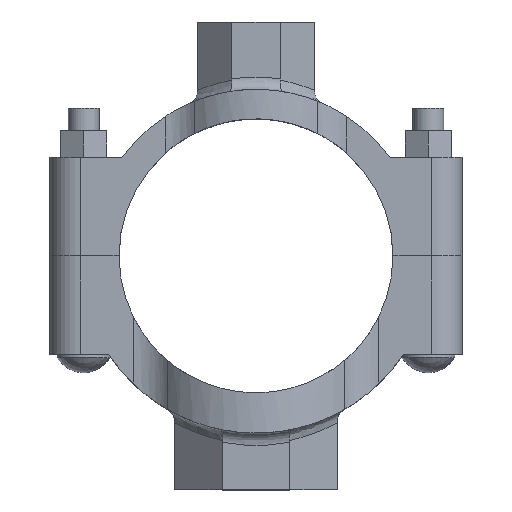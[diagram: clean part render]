
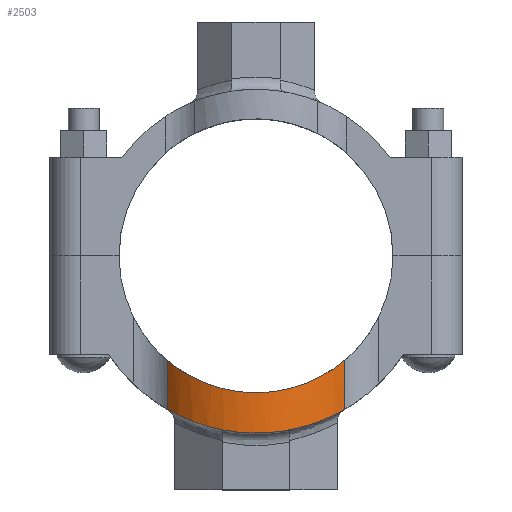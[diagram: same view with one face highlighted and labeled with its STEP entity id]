
A CAD part, top view. The second image highlights one B-rep face of the part: STEP entity #2503.
In plain terms, the highlighted cylindrical face has radius 58.801 mm (diameter 117.602 mm), a partial arc.
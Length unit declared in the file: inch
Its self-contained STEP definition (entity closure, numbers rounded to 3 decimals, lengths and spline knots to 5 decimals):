
#96=B_SPLINE_CURVE_WITH_KNOTS('',3,(#4636,#4637,#4638,#4639,#4640,#4641,
#4642,#4643,#4644,#4645,#4646,#4647,#4648,#4649,#4650,#4651,#4652,#4653,
#4654,#4655,#4656,#4657),.UNSPECIFIED.,.F.,.F.,(4,2,2,2,2,2,2,2,2,2,4),
(22.35035,23.00779,24.15185,25.29592,26.43998,
27.58405,28.72811,29.87217,31.01624,32.1603,
32.81774),.UNSPECIFIED.);
#107=B_SPLINE_CURVE_WITH_KNOTS('',3,(#4969,#4970,#4971,#4972,#4973,#4974,
#4975,#4976,#4977,#4978,#4979,#4980,#4981,#4982,#4983,#4984,#4985,#4986,
#4987,#4988,#4989,#4990),.UNSPECIFIED.,.F.,.F.,(4,2,2,2,2,2,2,2,2,2,4),
(4.19691,4.89556,6.07013,7.24471,8.41929,
9.59386,10.76844,11.94301,13.11759,14.29216,
14.99081),.UNSPECIFIED.);
#157=CYLINDRICAL_SURFACE('',#2789,2.315);
#305=FACE_OUTER_BOUND('',#457,.T.);
#457=EDGE_LOOP('',(#2139,#2140,#2141,#2142));
#642=LINE('',#5055,#826);
#643=LINE('',#5057,#827);
#826=VECTOR('',#3406,0.3937);
#827=VECTOR('',#3409,0.3937);
#1088=VERTEX_POINT('',#4622);
#1089=VERTEX_POINT('',#4635);
#1136=VERTEX_POINT('',#4955);
#1137=VERTEX_POINT('',#4968);
#1396=EDGE_CURVE('',#1089,#1088,#96,.T.);
#1458=EDGE_CURVE('',#1137,#1136,#107,.T.);
#1486=EDGE_CURVE('',#1136,#1089,#642,.T.);
#1487=EDGE_CURVE('',#1137,#1088,#643,.T.);
#2139=ORIENTED_EDGE('',*,*,#1458,.T.);
#2140=ORIENTED_EDGE('',*,*,#1486,.T.);
#2141=ORIENTED_EDGE('',*,*,#1396,.T.);
#2142=ORIENTED_EDGE('',*,*,#1487,.F.);
#2503=ADVANCED_FACE('',(#305),#157,.T.);
#2789=AXIS2_PLACEMENT_3D('',#5056,#3407,#3408);
#3406=DIRECTION('',(0.,1.,0.));
#3407=DIRECTION('center_axis',(0.,1.,0.));
#3408=DIRECTION('ref_axis',(-0.779,0.,0.628));
#3409=DIRECTION('',(0.,1.,0.));
#4622=CARTESIAN_POINT('',(-1.80242,3.11629,1.45276));
#4635=CARTESIAN_POINT('',(1.80242,3.11629,1.45276));
#4636=CARTESIAN_POINT('Ctrl Pts',(1.80242,3.11629,1.45276));
#4637=CARTESIAN_POINT('Ctrl Pts',(1.74981,3.14672,1.51803));
#4638=CARTESIAN_POINT('Ctrl Pts',(1.69434,3.17701,1.57957));
#4639=CARTESIAN_POINT('Ctrl Pts',(1.5371,3.25729,1.73681));
#4640=CARTESIAN_POINT('Ctrl Pts',(1.42394,3.30909,1.83142));
#4641=CARTESIAN_POINT('Ctrl Pts',(1.1758,3.40517,1.9998));
#4642=CARTESIAN_POINT('Ctrl Pts',(1.04081,3.44938,2.07357));
#4643=CARTESIAN_POINT('Ctrl Pts',(0.7567,3.52263,2.19326));
#4644=CARTESIAN_POINT('Ctrl Pts',(0.60728,3.5517,2.23928));
#4645=CARTESIAN_POINT('Ctrl Pts',(0.304,3.5904,2.30016));
#4646=CARTESIAN_POINT('Ctrl Pts',(0.15014,3.6,2.315));
#4647=CARTESIAN_POINT('Ctrl Pts',(-0.15014,3.6,2.315));
#4648=CARTESIAN_POINT('Ctrl Pts',(-0.304,3.5904,2.30016));
#4649=CARTESIAN_POINT('Ctrl Pts',(-0.60728,3.5517,2.23928));
#4650=CARTESIAN_POINT('Ctrl Pts',(-0.7567,3.52263,2.19326));
#4651=CARTESIAN_POINT('Ctrl Pts',(-1.04081,3.44938,2.07357));
#4652=CARTESIAN_POINT('Ctrl Pts',(-1.1758,3.40517,1.9998));
#4653=CARTESIAN_POINT('Ctrl Pts',(-1.42394,3.30909,1.83142));
#4654=CARTESIAN_POINT('Ctrl Pts',(-1.5371,3.25729,1.73681));
#4655=CARTESIAN_POINT('Ctrl Pts',(-1.69434,3.17701,1.57957));
#4656=CARTESIAN_POINT('Ctrl Pts',(-1.74981,3.14672,1.51803));
#4657=CARTESIAN_POINT('Ctrl Pts',(-1.80242,3.11629,1.45276));
#4955=CARTESIAN_POINT('',(1.80242,2.1185,1.45276));
#4968=CARTESIAN_POINT('',(-1.80242,2.1185,1.45276));
#4969=CARTESIAN_POINT('Ctrl Pts',(-1.80242,2.1185,1.45276));
#4970=CARTESIAN_POINT('Ctrl Pts',(-1.75003,2.16307,1.51776));
#4971=CARTESIAN_POINT('Ctrl Pts',(-1.6946,2.20685,1.57931));
#4972=CARTESIAN_POINT('Ctrl Pts',(-1.54004,2.31935,1.73386));
#4973=CARTESIAN_POINT('Ctrl Pts',(-1.4296,2.39001,1.82684));
#4974=CARTESIAN_POINT('Ctrl Pts',(-1.18548,2.52002,1.99393));
#4975=CARTESIAN_POINT('Ctrl Pts',(-1.05178,2.57934,2.06803));
#4976=CARTESIAN_POINT('Ctrl Pts',(-0.76823,2.67751,2.18925));
#4977=CARTESIAN_POINT('Ctrl Pts',(-0.61804,2.71643,2.23647));
#4978=CARTESIAN_POINT('Ctrl Pts',(-0.311,2.76844,2.29936));
#4979=CARTESIAN_POINT('Ctrl Pts',(-0.15414,2.7815,2.315));
#4980=CARTESIAN_POINT('Ctrl Pts',(0.15414,2.7815,2.315));
#4981=CARTESIAN_POINT('Ctrl Pts',(0.311,2.76844,2.29936));
#4982=CARTESIAN_POINT('Ctrl Pts',(0.61804,2.71643,2.23647));
#4983=CARTESIAN_POINT('Ctrl Pts',(0.76823,2.67751,2.18925));
#4984=CARTESIAN_POINT('Ctrl Pts',(1.05178,2.57934,2.06803));
#4985=CARTESIAN_POINT('Ctrl Pts',(1.18548,2.52002,1.99393));
#4986=CARTESIAN_POINT('Ctrl Pts',(1.4296,2.39001,1.82684));
#4987=CARTESIAN_POINT('Ctrl Pts',(1.54004,2.31935,1.73386));
#4988=CARTESIAN_POINT('Ctrl Pts',(1.6946,2.20685,1.57931));
#4989=CARTESIAN_POINT('Ctrl Pts',(1.75003,2.16307,1.51776));
#4990=CARTESIAN_POINT('Ctrl Pts',(1.80242,2.1185,1.45276));
#5055=CARTESIAN_POINT('',(1.80242,0.,1.45276));
#5056=CARTESIAN_POINT('Origin',(0.,0.,0.));
#5057=CARTESIAN_POINT('',(-1.80242,0.,1.45276));
